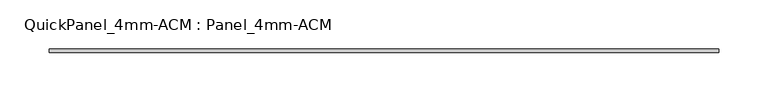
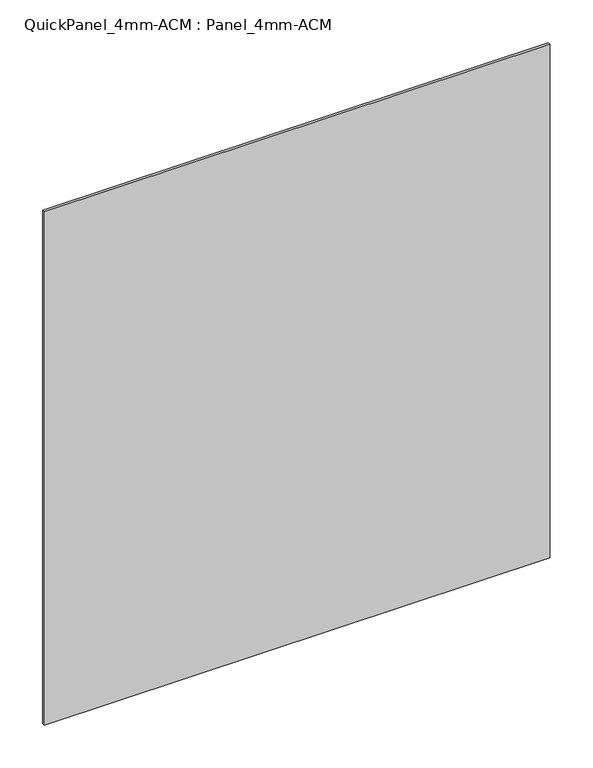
"""IFC4 building model written with IfcOpenShell, lengths in millimetres: plate geometry, QuickPanel_4mm-ACM : Panel_4mm-ACM."""

from ifc_helpers import new_model, si_unit, origin, origin_with_axes, place, context, project, spatial, polyline, outline, extrude, source, transform, mapped, element, save


def quickpanel_4mm_acm_panel_4mm_acm_39144ba7(model_context):
    return source(origin(), model_context, "Body", "SweptSolid", [
        extrude(outline(polyline([(-341.1618133, -6.096), (341.1618133, -6.096), (341.1618133, -9.906), (-341.1618133, -9.906), (-341.1618133, -6.096)])), origin_with_axes(), (0.0, 0.0, 1.0), 731.7965616),
    ])


if __name__ == "__main__":
    model = new_model("IFC4")
    model_context = context("Model", 3, world=origin())
    ifc_project = project(units=[si_unit("LENGTHUNIT", "METRE", prefix="MILLI")], contexts=[model_context])
    site = spatial("IfcSite", under=ifc_project)
    building = spatial("IfcBuilding", under=site)
    placement = place(None, origin())
    quickpanel_4mm_acm_panel_4mm_acm_shape = quickpanel_4mm_acm_panel_4mm_acm_39144ba7(model_context)
    element("IfcPlate", 1, ObjectType="QuickPanel_4mm-ACM : Panel_4mm-ACM", at=placement, inside=building, context=model_context, shape_type="MappedRepresentation", body=[
        mapped(quickpanel_4mm_acm_panel_4mm_acm_shape, transform((0.0, 0.0, 0.0), x_axis=(1.0, 0.0, 0.0), y_axis=(0.0, 1.0, 0.0), z_axis=(0.0, 0.0, 1.0))),
    ])
    save(model, "model.ifc")
